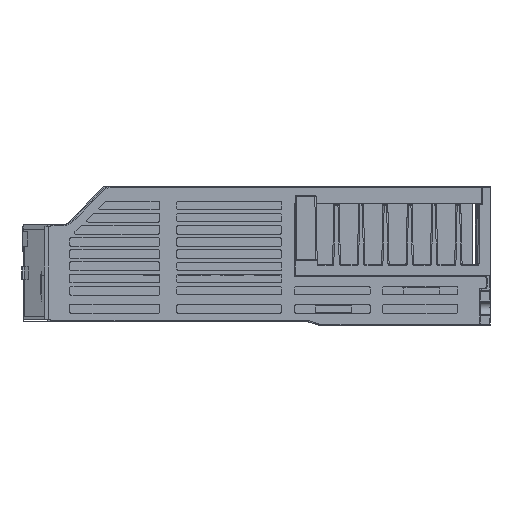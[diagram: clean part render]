
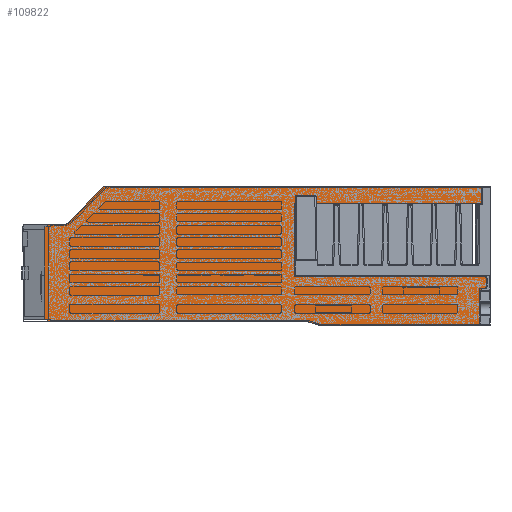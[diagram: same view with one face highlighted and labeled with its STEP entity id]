
A CAD part, left-side view. The second image highlights one B-rep face of the part: STEP entity #109822.
In plain terms, the highlighted planar face has unit normal (-1, 0, 0).
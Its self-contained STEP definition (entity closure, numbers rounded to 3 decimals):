
#108358=DIRECTION('',(0.,-1.,0.));
#108359=VECTOR('',#108358,66.6);
#108360=CARTESIAN_POINT('',(-99.25,70.,-28.5));
#108361=LINE('',#108360,#108359);
#108554=CARTESIAN_POINT('',(-99.25,159.,28.5));
#109044=DIRECTION('',(0.,-1.,0.));
#109045=VECTOR('',#109044,78.8);
#109046=CARTESIAN_POINT('',(-99.25,80.2,-8.5));
#109047=LINE('',#109046,#109045);
#109048=DIRECTION('',(0.,0.,-1.));
#109049=VECTOR('',#109048,5.);
#109050=CARTESIAN_POINT('',(-99.25,1.4,-8.5));
#109051=LINE('',#109050,#109049);
#109052=DIRECTION('',(0.,1.,0.));
#109053=VECTOR('',#109052,2.);
#109054=CARTESIAN_POINT('',(-99.25,1.4,-13.5));
#109055=LINE('',#109054,#109053);
#109056=DIRECTION('',(0.,0.,-1.));
#109057=VECTOR('',#109056,15.);
#109058=CARTESIAN_POINT('',(-99.25,3.4,-13.5));
#109059=LINE('',#109058,#109057);
#109060=DIRECTION('',(0.,0.958,0.287));
#109061=VECTOR('',#109060,5.22);
#109062=CARTESIAN_POINT('',(-99.25,70.,-28.5));
#109063=LINE('',#109062,#109061);
#109064=DIRECTION('',(0.,1.,0.));
#109065=VECTOR('',#109064,107.);
#109066=CARTESIAN_POINT('',(-99.25,75.,-27.));
#109067=LINE('',#109066,#109065);
#109068=DIRECTION('',(0.,0.,1.));
#109069=VECTOR('',#109068,1.);
#109070=CARTESIAN_POINT('',(-99.25,182.,-27.));
#109071=LINE('',#109070,#109069);
#109072=DIRECTION('',(0.,1.,0.));
#109073=VECTOR('',#109072,1.);
#109074=CARTESIAN_POINT('',(-99.25,182.,-26.));
#109075=LINE('',#109074,#109073);
#109076=DIRECTION('',(0.,0.,1.));
#109077=VECTOR('',#109076,38.);
#109078=CARTESIAN_POINT('',(-99.25,183.,-26.));
#109079=LINE('',#109078,#109077);
#109080=DIRECTION('',(0.,-1.,0.));
#109081=VECTOR('',#109080,1.);
#109082=CARTESIAN_POINT('',(-99.25,183.,12.));
#109083=LINE('',#109082,#109081);
#109084=DIRECTION('',(0.,0.,1.));
#109085=VECTOR('',#109084,1.);
#109086=CARTESIAN_POINT('',(-99.25,182.,12.));
#109087=LINE('',#109086,#109085);
#109088=DIRECTION('',(0.,-1.,0.));
#109089=VECTOR('',#109088,8.);
#109090=CARTESIAN_POINT('',(-99.25,182.,13.));
#109091=LINE('',#109090,#109089);
#109092=DIRECTION('',(0.,-0.695,0.719));
#109093=VECTOR('',#109092,21.57);
#109094=CARTESIAN_POINT('',(-99.25,174.,13.));
#109095=LINE('',#109094,#109093);
#109096=DIRECTION('',(0.,-1.,0.));
#109097=VECTOR('',#109096,155.6);
#109098=CARTESIAN_POINT('',(-99.25,159.,28.5));
#109099=LINE('',#109098,#109097);
#109100=DIRECTION('',(0.,0.,-1.));
#109101=VECTOR('',#109100,7.);
#109102=CARTESIAN_POINT('',(-99.25,3.4,28.5));
#109103=LINE('',#109102,#109101);
#109104=DIRECTION('',(0.,1.,0.));
#109105=VECTOR('',#109104,76.8);
#109106=CARTESIAN_POINT('',(-99.25,3.4,21.5));
#109107=LINE('',#109106,#109105);
#109108=DIRECTION('',(0.,0.,-1.));
#109109=VECTOR('',#109108,30.);
#109110=CARTESIAN_POINT('',(-99.25,80.2,21.5));
#109111=LINE('',#109110,#109109);
#109164=CARTESIAN_POINT('',(-99.25,70.,-28.5));
#109165=VERTEX_POINT('',#109164);
#109166=CARTESIAN_POINT('',(-99.25,3.4,-28.5));
#109168=VERTEX_POINT('',#109166);
#109249=CARTESIAN_POINT('',(-99.25,3.4,28.5));
#109250=VERTEX_POINT('',#109249);
#109251=VERTEX_POINT('',#108554);
#109368=CARTESIAN_POINT('',(-99.25,80.2,-8.5));
#109369=CARTESIAN_POINT('',(-99.25,1.4,-8.5));
#109370=VERTEX_POINT('',#109368);
#109371=VERTEX_POINT('',#109369);
#109372=CARTESIAN_POINT('',(-99.25,1.4,-13.5));
#109373=VERTEX_POINT('',#109372);
#109374=CARTESIAN_POINT('',(-99.25,3.4,-13.5));
#109375=VERTEX_POINT('',#109374);
#109376=CARTESIAN_POINT('',(-99.25,75.,-27.));
#109377=VERTEX_POINT('',#109376);
#109378=CARTESIAN_POINT('',(-99.25,182.,-27.));
#109379=VERTEX_POINT('',#109378);
#109380=CARTESIAN_POINT('',(-99.25,182.,-26.));
#109381=VERTEX_POINT('',#109380);
#109382=CARTESIAN_POINT('',(-99.25,183.,-26.));
#109383=VERTEX_POINT('',#109382);
#109384=CARTESIAN_POINT('',(-99.25,183.,12.));
#109385=VERTEX_POINT('',#109384);
#109386=CARTESIAN_POINT('',(-99.25,182.,12.));
#109387=VERTEX_POINT('',#109386);
#109388=CARTESIAN_POINT('',(-99.25,182.,13.));
#109389=VERTEX_POINT('',#109388);
#109390=CARTESIAN_POINT('',(-99.25,174.,13.));
#109391=VERTEX_POINT('',#109390);
#109392=CARTESIAN_POINT('',(-99.25,3.4,21.5));
#109393=VERTEX_POINT('',#109392);
#109394=CARTESIAN_POINT('',(-99.25,80.2,21.5));
#109395=VERTEX_POINT('',#109394);
#109781=CARTESIAN_POINT('',(-99.25,183.,-28.5));
#109782=DIRECTION('',(-1.,0.,0.));
#109783=DIRECTION('',(0.,-1.,0.));
#109784=AXIS2_PLACEMENT_3D('',#109781,#109782,#109783);
#109785=PLANE('',#109784);
#109787=ORIENTED_EDGE('',*,*,#109786,.T.);
#109789=ORIENTED_EDGE('',*,*,#109788,.T.);
#109791=ORIENTED_EDGE('',*,*,#109790,.T.);
#109793=ORIENTED_EDGE('',*,*,#109792,.T.);
#109794=ORIENTED_EDGE('',*,*,#109457,.F.);
#109796=ORIENTED_EDGE('',*,*,#109795,.T.);
#109798=ORIENTED_EDGE('',*,*,#109797,.T.);
#109800=ORIENTED_EDGE('',*,*,#109799,.T.);
#109802=ORIENTED_EDGE('',*,*,#109801,.T.);
#109804=ORIENTED_EDGE('',*,*,#109803,.T.);
#109806=ORIENTED_EDGE('',*,*,#109805,.T.);
#109808=ORIENTED_EDGE('',*,*,#109807,.T.);
#109810=ORIENTED_EDGE('',*,*,#109809,.T.);
#109812=ORIENTED_EDGE('',*,*,#109811,.T.);
#109813=ORIENTED_EDGE('',*,*,#109584,.T.);
#109815=ORIENTED_EDGE('',*,*,#109814,.T.);
#109817=ORIENTED_EDGE('',*,*,#109816,.T.);
#109819=ORIENTED_EDGE('',*,*,#109818,.T.);
#109820=EDGE_LOOP('',(#109787,#109789,#109791,#109793,#109794,#109796,#109798,
#109800,#109802,#109804,#109806,#109808,#109810,#109812,#109813,#109815,#109817,
#109819));
#109821=FACE_OUTER_BOUND('',#109820,.F.);
#109457=EDGE_CURVE('',#109165,#109168,#108361,.T.);
#109584=EDGE_CURVE('',#109251,#109250,#109099,.T.);
#109786=EDGE_CURVE('',#109370,#109371,#109047,.T.);
#109788=EDGE_CURVE('',#109371,#109373,#109051,.T.);
#109790=EDGE_CURVE('',#109373,#109375,#109055,.T.);
#109792=EDGE_CURVE('',#109375,#109168,#109059,.T.);
#109795=EDGE_CURVE('',#109165,#109377,#109063,.T.);
#109797=EDGE_CURVE('',#109377,#109379,#109067,.T.);
#109799=EDGE_CURVE('',#109379,#109381,#109071,.T.);
#109801=EDGE_CURVE('',#109381,#109383,#109075,.T.);
#109803=EDGE_CURVE('',#109383,#109385,#109079,.T.);
#109805=EDGE_CURVE('',#109385,#109387,#109083,.T.);
#109807=EDGE_CURVE('',#109387,#109389,#109087,.T.);
#109809=EDGE_CURVE('',#109389,#109391,#109091,.T.);
#109811=EDGE_CURVE('',#109391,#109251,#109095,.T.);
#109814=EDGE_CURVE('',#109250,#109393,#109103,.T.);
#109816=EDGE_CURVE('',#109393,#109395,#109107,.T.);
#109818=EDGE_CURVE('',#109395,#109370,#109111,.T.);
#109822=ADVANCED_FACE('',(#109821),#109785,.T.);
